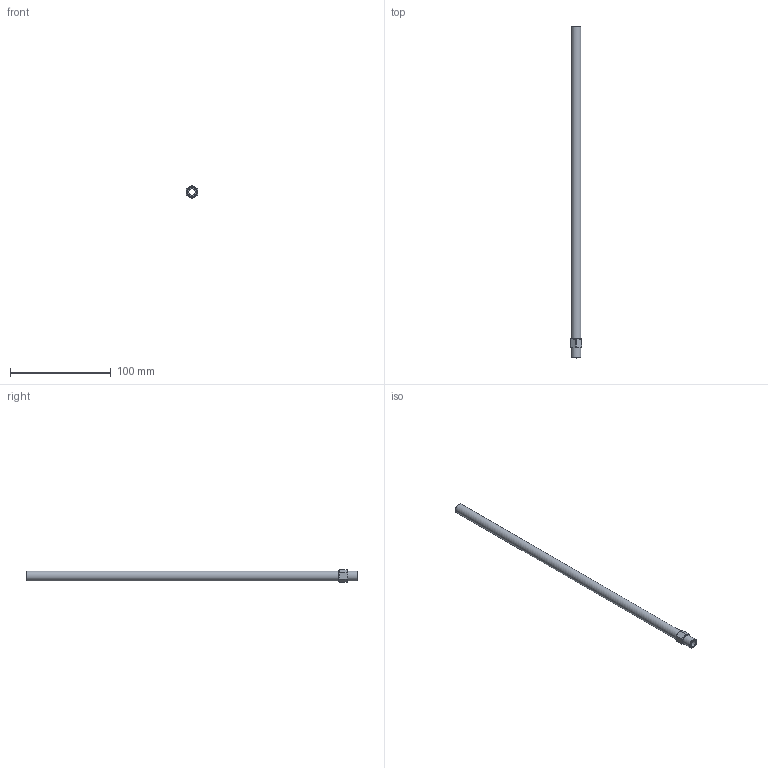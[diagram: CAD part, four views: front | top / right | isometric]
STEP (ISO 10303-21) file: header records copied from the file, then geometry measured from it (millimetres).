
FILE_DESCRIPTION(/* description */ (''),/* implementation_level */ '2;1');
FILE_NAME(/* name */ 'C:/Users/drich/Desktop/APN18-13 v1.step',/* time_stamp */ '2019-12-27T17:52:28-06:00',/* author */ (''),/* organization */ (''),/* preprocessor_version */ 'ST-DEVELOPER v18',/* originating_system */ 'Autodesk Translation Framework v8.12.0.6',/* authorisation */ '');
FILE_SCHEMA (('AUTOMOTIVE_DESIGN { 1 0 10303 214 3 1 1 }'));
Length unit declared in the file: inch
Products named in the file (1): APN18-13
Bounding box: 11.07 x 330.2 x 12.7 mm (x, y, z)
Volume: 13833.8 mm3; surface area: 16754.5 mm2
Topology: 1 solids, 1 shells, 23 faces, 59 edges, 40 vertices
Faces by surface type: plane 10, cylinder 9, cone 4
Full cylindrical faces by diameter (mm): 6.35 x1, 9.621 x2
Entity records: 751 total; most frequent: CARTESIAN_POINT 147, DIRECTION 123, ORIENTED_EDGE 118, EDGE_CURVE 59, AXIS2_PLACEMENT_3D 52, VERTEX_POINT 40, CIRCLE 28, EDGE_LOOP 27
